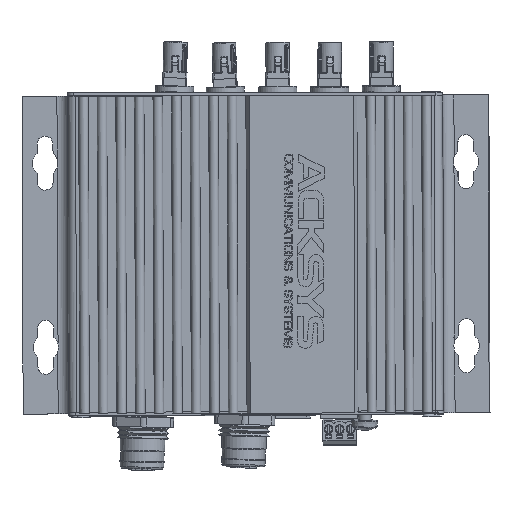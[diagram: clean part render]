
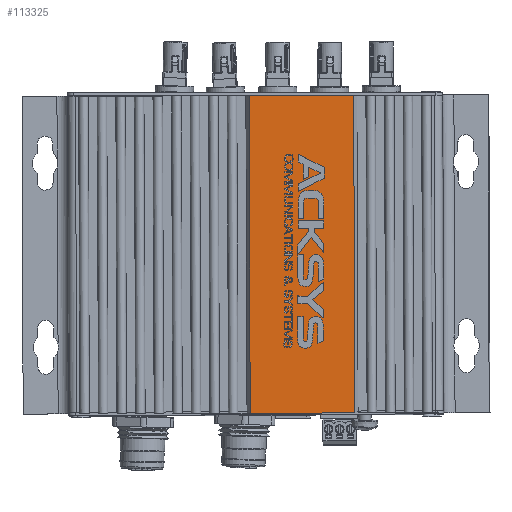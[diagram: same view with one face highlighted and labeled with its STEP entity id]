
A CAD part, front view. The second image highlights one B-rep face of the part: STEP entity #113325.
In plain terms, the highlighted planar face has unit normal (-0.004, -1, 0) as drawn and (1, 0, 0) by its records, which use the part's own axes.
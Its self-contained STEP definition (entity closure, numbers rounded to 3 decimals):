
#3682=PLANE('',#120550);
#8216=FACE_OUTER_BOUND('',#14194,.T.);
#14194=EDGE_LOOP('',(#80605,#80606,#80607,#80608));
#20599=LINE('',#161256,#34426);
#20601=LINE('',#161260,#34428);
#20602=LINE('',#161262,#34429);
#20603=LINE('',#161263,#34430);
#34426=VECTOR('',#129603,1.);
#34428=VECTOR('',#129607,1.);
#34429=VECTOR('',#129608,1.);
#34430=VECTOR('',#129609,1.);
#51040=VERTEX_POINT('',#161253);
#51041=VERTEX_POINT('',#161255);
#51042=VERTEX_POINT('',#161259);
#51043=VERTEX_POINT('',#161261);
#63254=EDGE_CURVE('',#51041,#51040,#20599,.T.);
#63256=EDGE_CURVE('',#51040,#51042,#20601,.T.);
#63257=EDGE_CURVE('',#51043,#51042,#20602,.T.);
#63258=EDGE_CURVE('',#51041,#51043,#20603,.T.);
#80605=ORIENTED_EDGE('',*,*,#63256,.T.);
#80606=ORIENTED_EDGE('',*,*,#63257,.F.);
#80607=ORIENTED_EDGE('',*,*,#63258,.F.);
#80608=ORIENTED_EDGE('',*,*,#63254,.T.);
#113325=ADVANCED_FACE('',(#8216),#3682,.F.);
#120550=AXIS2_PLACEMENT_3D('',#161258,#129605,#129606);
#129603=DIRECTION('',(0.,0.,-1.));
#129605=DIRECTION('center_axis',(-1.,0.,0.));
#129606=DIRECTION('ref_axis',(0.,0.,1.));
#129607=DIRECTION('',(0.,1.,0.));
#129608=DIRECTION('',(0.,0.,-1.));
#129609=DIRECTION('',(0.,1.,0.));
#161253=CARTESIAN_POINT('',(1.5,17.05,0.));
#161255=CARTESIAN_POINT('',(1.5,17.05,100.));
#161256=CARTESIAN_POINT('',(1.5,17.05,100.));
#161258=CARTESIAN_POINT('Origin',(1.5,17.05,100.));
#161259=CARTESIAN_POINT('',(1.5,50.,0.));
#161260=CARTESIAN_POINT('',(1.5,17.05,0.));
#161261=CARTESIAN_POINT('',(1.5,50.,100.));
#161262=CARTESIAN_POINT('',(1.5,50.,100.));
#161263=CARTESIAN_POINT('',(1.5,17.05,100.));
